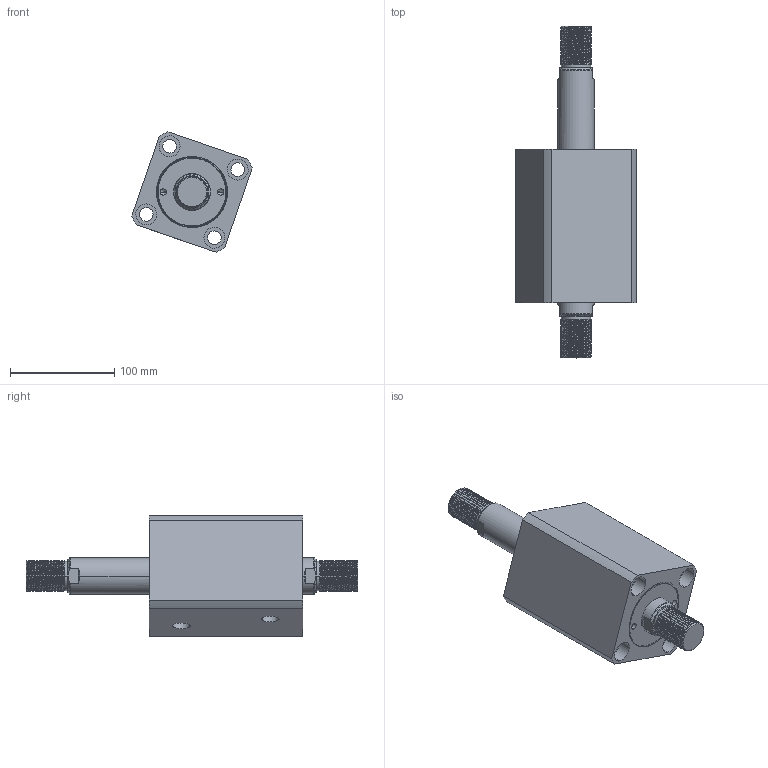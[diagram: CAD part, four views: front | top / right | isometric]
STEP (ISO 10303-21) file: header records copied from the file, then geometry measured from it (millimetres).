
FILE_DESCRIPTION (( 'STEP AP214' ), '1' );
FILE_NAME ('chtb-sw63x65w_asm.STEP', '2018-05-19T03:23:00', ( 'Windows' ), ( 'Microsoft' ), 'SwSTEP 2.0', 'SolidWorks 2015', '' );
FILE_SCHEMA (( 'AUTOMOTIVE_DESIGN' ));
Length unit declared in the file: millimetre
Products named in the file (4): CHTB-SW63X65NBT; CHTB-63QG; CHTB-SW63X65WHSG; chtb-sw63x65w_asm
Assembly tree (3 placements, depth 2):
  chtb-sw63x65w_asm
    CHTB-SW63X65WHSG
    CHTB-63QG
    CHTB-SW63X65NBT
Bounding box: 115.15 x 318 x 115.15 mm (x, y, z)
Volume: 1184798.7 mm3; surface area: 189908.4 mm2
Topology: 3 solids, 3 shells, 296 faces, 841 edges, 569 vertices
Faces by surface type: cylinder 206, plane 46, cone 16, bspline 16, torus 12
Entity records: 27380 total; most frequent: CARTESIAN_POINT 20442, ORIENTED_EDGE 1674, DIRECTION 1166, EDGE_CURVE 837, VERTEX_POINT 569, AXIS2_PLACEMENT_3D 453, EDGE_LOOP 334, FACE_OUTER_BOUND 296
